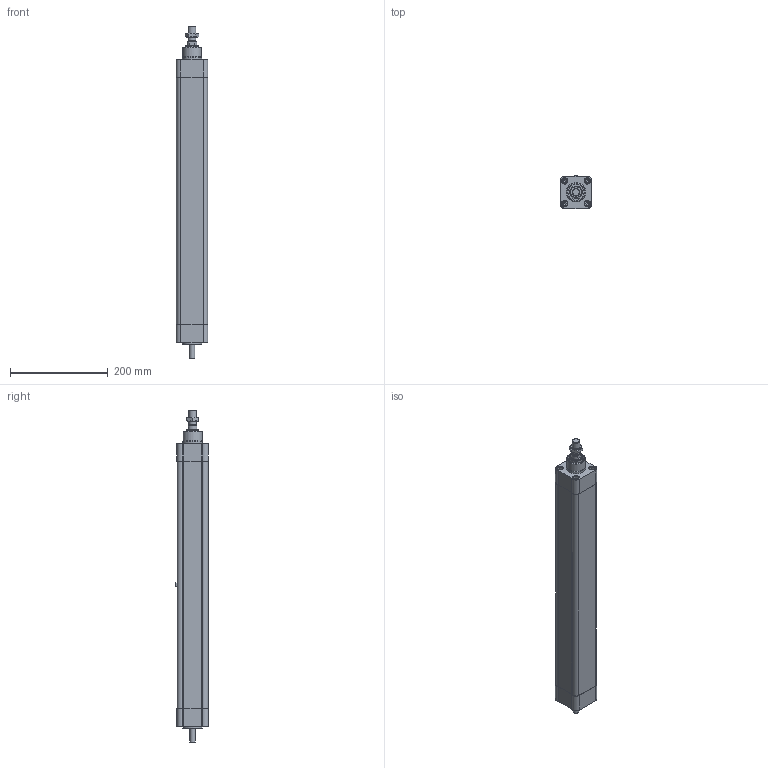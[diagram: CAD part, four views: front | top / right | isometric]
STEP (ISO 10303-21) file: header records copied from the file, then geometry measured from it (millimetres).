
FILE_DESCRIPTION(/* description */ ('STEP AP203'),/* implementation_level */ '2;1');
FILE_NAME(/* name */ 'PNCE 50 BS 2005 400 S(0)',/* time_stamp */ '2025-01-24T08:10:53+01:00',/* author */ ('License CC BY-ND 4.0'),/* organization */ ('CADENAS'),/* preprocessor_version */ 'ST-DEVELOPER v19.3',/* originating_system */ 'PARTsolutions',/* authorisation */ ' ');
FILE_SCHEMA (('CONFIG_CONTROL_DESIGN'));
Length unit declared in the file: millimetre
Products named in the file (6): PNCE 50 BS 2005 400 S(0); PNCE 50_drive cap; PNCE 50 400 S(0)_cylinder profil; PNCE 50_front cap; PNCE 50 400 S 0_piston rod; PNCE 50_nut
Assembly tree (5 placements, depth 2):
  PNCE 50 BS 2005 400 S(0)
    PNCE 50_drive cap
    PNCE 50 400 S(0)_cylinder profil
    PNCE 50_front cap
    PNCE 50 400 S 0_piston rod
    PNCE 50_nut
Bounding box: 64.97 x 67.5 x 681 mm (x, y, z)
Volume: 1673936.9 mm3; surface area: 379114.8 mm2
Topology: 5 solids, 5 shells, 261 faces, 582 edges, 381 vertices
Faces by surface type: plane 136, cylinder 91, cone 32, torus 2
Full cylindrical faces by diameter (mm): 5.3 x1, 6.647 x8, 6.7 x4, 8 x8, 8.566 x1, 8.7 x4, 10.6 x1, 11 x1, 12 x8, 13 x8, 14.2 x1, 14.376 x1, 16 x1, 24.8 x1, 25 x2, 31 x1, 33 x1, 39 x1, 40 x2, 49 x1, 50 x3
Entity records: 8357 total; most frequent: DIRECTION 1188, CARTESIAN_POINT 1180, ORIENTED_EDGE 930, AXIS2_PLACEMENT_3D 472, EDGE_CURVE 465, FACE_BOUND 425, EDGE_LOOP 416, VERTEX_POINT 364
